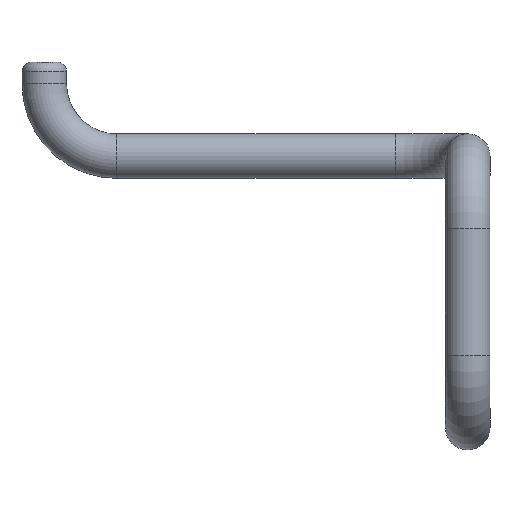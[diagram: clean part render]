
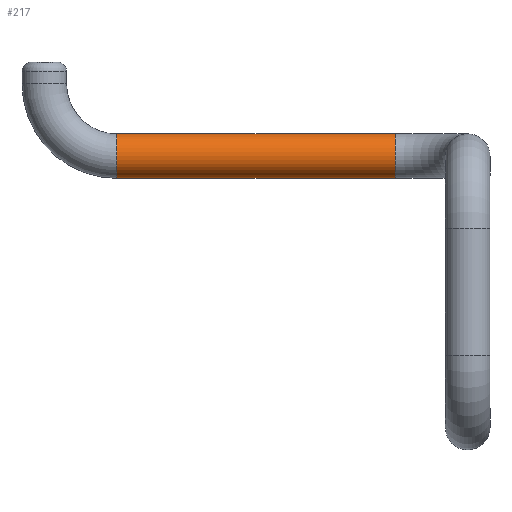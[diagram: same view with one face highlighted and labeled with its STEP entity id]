
A CAD part, left-side view. The second image highlights one B-rep face of the part: STEP entity #217.
In plain terms, the highlighted cylindrical face has radius 0.925 mm (diameter 1.85 mm), a full revolution.
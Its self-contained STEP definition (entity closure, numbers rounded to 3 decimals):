
#152 = TOROIDAL_SURFACE('',#153,3.,0.925);
#153 = AXIS2_PLACEMENT_3D('',#154,#155,#156);
#154 = CARTESIAN_POINT('',(1.27,-12.428,-6.5));
#155 = DIRECTION('',(1.,-0.,0.));
#156 = DIRECTION('',(0.,0.,-1.));
#168 = VERTEX_POINT('',#169);
#169 = CARTESIAN_POINT('',(1.27,-12.428,-8.575));
#192 = EDGE_CURVE('',#168,#168,#193,.T.);
#193 = SURFACE_CURVE('',#194,(#199,#205),.PCURVE_S1.);
#194 = CIRCLE('',#195,0.925);
#195 = AXIS2_PLACEMENT_3D('',#196,#197,#198);
#196 = CARTESIAN_POINT('',(1.27,-12.428,-9.5));
#197 = DIRECTION('',(0.,1.,0.));
#198 = DIRECTION('',(0.,0.,1.));
#199 = PCURVE('',#152,#200);
#200 = DEFINITIONAL_REPRESENTATION('',(#201),#204);
#201 = B_SPLINE_CURVE_WITH_KNOTS('',1,(#202,#203),.UNSPECIFIED.,.F.,.F.,
  (2,2),(0.,6.283),.PIECEWISE_BEZIER_KNOTS.);
#202 = CARTESIAN_POINT('',(0.,9.425));
#203 = CARTESIAN_POINT('',(0.,3.142));
#204 = ( GEOMETRIC_REPRESENTATION_CONTEXT(2) 
PARAMETRIC_REPRESENTATION_CONTEXT() REPRESENTATION_CONTEXT('2D SPACE',''
  ) );
#205 = PCURVE('',#206,#211);
#206 = CYLINDRICAL_SURFACE('',#207,0.925);
#207 = AXIS2_PLACEMENT_3D('',#208,#209,#210);
#208 = CARTESIAN_POINT('',(1.27,-23.99,-9.5));
#209 = DIRECTION('',(0.,1.,0.));
#210 = DIRECTION('',(0.,-0.,1.));
#211 = DEFINITIONAL_REPRESENTATION('',(#212),#216);
#212 = LINE('',#213,#214);
#213 = CARTESIAN_POINT('',(0.,11.562));
#214 = VECTOR('',#215,1.);
#215 = DIRECTION('',(1.,0.));
#216 = ( GEOMETRIC_REPRESENTATION_CONTEXT(2) 
PARAMETRIC_REPRESENTATION_CONTEXT() REPRESENTATION_CONTEXT('2D SPACE',''
  ) );
#217 = ADVANCED_FACE('',(#218),#206,.T.);
#218 = FACE_BOUND('',#219,.T.);
#219 = EDGE_LOOP('',(#220,#242,#243,#244));
#220 = ORIENTED_EDGE('',*,*,#221,.T.);
#221 = EDGE_CURVE('',#222,#168,#224,.T.);
#222 = VERTEX_POINT('',#223);
#223 = CARTESIAN_POINT('',(1.27,-23.99,-8.575));
#224 = SEAM_CURVE('',#225,(#229,#236),.PCURVE_S1.);
#225 = LINE('',#226,#227);
#226 = CARTESIAN_POINT('',(1.27,-23.99,-8.575));
#227 = VECTOR('',#228,1.);
#228 = DIRECTION('',(0.,1.,0.));
#229 = PCURVE('',#206,#230);
#230 = DEFINITIONAL_REPRESENTATION('',(#231),#235);
#231 = LINE('',#232,#233);
#232 = CARTESIAN_POINT('',(6.283,0.));
#233 = VECTOR('',#234,1.);
#234 = DIRECTION('',(0.,1.));
#235 = ( GEOMETRIC_REPRESENTATION_CONTEXT(2) 
PARAMETRIC_REPRESENTATION_CONTEXT() REPRESENTATION_CONTEXT('2D SPACE',''
  ) );
#236 = PCURVE('',#206,#237);
#237 = DEFINITIONAL_REPRESENTATION('',(#238),#241);
#238 = B_SPLINE_CURVE_WITH_KNOTS('',1,(#239,#240),.UNSPECIFIED.,.F.,.F.,
  (2,2),(0.,11.562),.PIECEWISE_BEZIER_KNOTS.);
#239 = CARTESIAN_POINT('',(0.,0.));
#240 = CARTESIAN_POINT('',(0.,11.562));
#241 = ( GEOMETRIC_REPRESENTATION_CONTEXT(2) 
PARAMETRIC_REPRESENTATION_CONTEXT() REPRESENTATION_CONTEXT('2D SPACE',''
  ) );
#242 = ORIENTED_EDGE('',*,*,#192,.F.);
#243 = ORIENTED_EDGE('',*,*,#221,.F.);
#244 = ORIENTED_EDGE('',*,*,#245,.F.);
#245 = EDGE_CURVE('',#222,#222,#246,.T.);
#246 = SURFACE_CURVE('',#247,(#252,#258),.PCURVE_S1.);
#247 = CIRCLE('',#248,0.925);
#248 = AXIS2_PLACEMENT_3D('',#249,#250,#251);
#249 = CARTESIAN_POINT('',(1.27,-23.99,-9.5));
#250 = DIRECTION('',(0.,-1.,0.));
#251 = DIRECTION('',(1.,0.,0.));
#252 = PCURVE('',#206,#253);
#253 = DEFINITIONAL_REPRESENTATION('',(#254),#257);
#254 = B_SPLINE_CURVE_WITH_KNOTS('',1,(#255,#256),.UNSPECIFIED.,.F.,.F.,
  (2,2),(1.571,7.854),.PIECEWISE_BEZIER_KNOTS.);
#255 = CARTESIAN_POINT('',(6.283,0.));
#256 = CARTESIAN_POINT('',(0.,0.));
#257 = ( GEOMETRIC_REPRESENTATION_CONTEXT(2) 
PARAMETRIC_REPRESENTATION_CONTEXT() REPRESENTATION_CONTEXT('2D SPACE',''
  ) );
#258 = PCURVE('',#259,#264);
#259 = TOROIDAL_SURFACE('',#260,3.,0.925);
#260 = AXIS2_PLACEMENT_3D('',#261,#262,#263);
#261 = CARTESIAN_POINT('',(-1.73,-23.99,-9.5));
#262 = DIRECTION('',(-0.,0.,1.));
#263 = DIRECTION('',(0.,-1.,0.));
#264 = DEFINITIONAL_REPRESENTATION('',(#265),#269);
#265 = LINE('',#266,#267);
#266 = CARTESIAN_POINT('',(1.571,0.));
#267 = VECTOR('',#268,1.);
#268 = DIRECTION('',(0.,1.));
#269 = ( GEOMETRIC_REPRESENTATION_CONTEXT(2) 
PARAMETRIC_REPRESENTATION_CONTEXT() REPRESENTATION_CONTEXT('2D SPACE',''
  ) );
